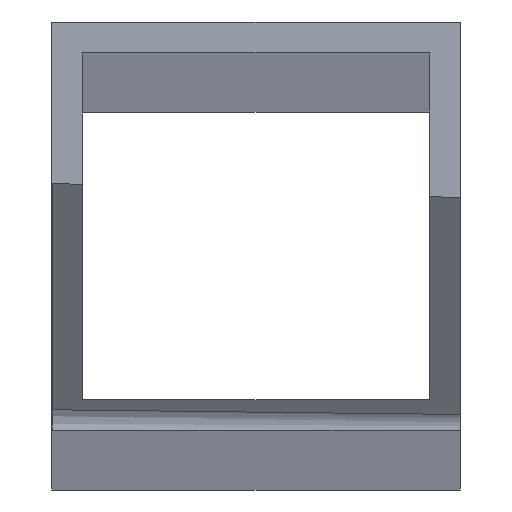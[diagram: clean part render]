
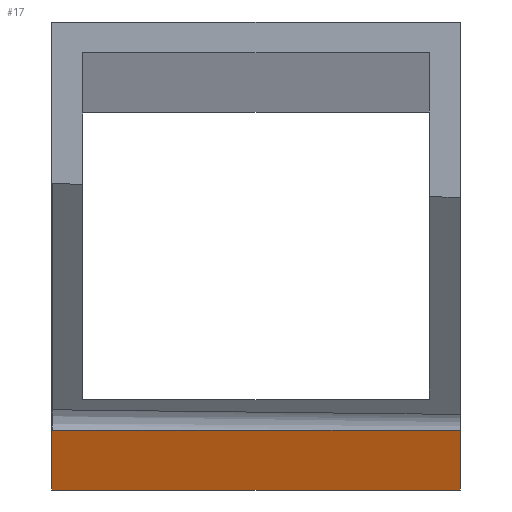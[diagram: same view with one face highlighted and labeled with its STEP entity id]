
A CAD part, top view. The second image highlights one B-rep face of the part: STEP entity #17.
In plain terms, the highlighted planar face has unit normal (0, -1, 0).
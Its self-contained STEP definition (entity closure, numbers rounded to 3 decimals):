
#17 = ADVANCED_FACE('',(#18),#32,.F.);
#18 = FACE_BOUND('',#19,.F.);
#19 = EDGE_LOOP('',(#20,#55,#83,#116,#148));
#20 = ORIENTED_EDGE('',*,*,#21,.F.);
#21 = EDGE_CURVE('',#22,#24,#26,.T.);
#22 = VERTEX_POINT('',#23);
#23 = CARTESIAN_POINT('',(-20.,-20.,0.));
#24 = VERTEX_POINT('',#25);
#25 = CARTESIAN_POINT('',(20.,-20.,0.));
#26 = SURFACE_CURVE('',#27,(#31,#43),.PCURVE_S1.);
#27 = LINE('',#28,#29);
#28 = CARTESIAN_POINT('',(-20.,-20.,0.));
#29 = VECTOR('',#30,1.);
#30 = DIRECTION('',(1.,0.,0.));
#31 = PCURVE('',#32,#37);
#32 = PLANE('',#33);
#33 = AXIS2_PLACEMENT_3D('',#34,#35,#36);
#34 = CARTESIAN_POINT('',(-20.,-20.,0.));
#35 = DIRECTION('',(0.,1.,0.));
#36 = DIRECTION('',(1.,0.,0.));
#37 = DEFINITIONAL_REPRESENTATION('',(#38),#42);
#38 = LINE('',#39,#40);
#39 = CARTESIAN_POINT('',(0.,0.));
#40 = VECTOR('',#41,1.);
#41 = DIRECTION('',(1.,0.));
#42 = ( GEOMETRIC_REPRESENTATION_CONTEXT(2) 
PARAMETRIC_REPRESENTATION_CONTEXT() REPRESENTATION_CONTEXT('2D SPACE',''
  ) );
#43 = PCURVE('',#44,#49);
#44 = PLANE('',#45);
#45 = AXIS2_PLACEMENT_3D('',#46,#47,#48);
#46 = CARTESIAN_POINT('',(0.,0.,0.));
#47 = DIRECTION('',(0.,0.,1.));
#48 = DIRECTION('',(1.,0.,-0.));
#49 = DEFINITIONAL_REPRESENTATION('',(#50),#54);
#50 = LINE('',#51,#52);
#51 = CARTESIAN_POINT('',(-20.,-20.));
#52 = VECTOR('',#53,1.);
#53 = DIRECTION('',(1.,0.));
#54 = ( GEOMETRIC_REPRESENTATION_CONTEXT(2) 
PARAMETRIC_REPRESENTATION_CONTEXT() REPRESENTATION_CONTEXT('2D SPACE',''
  ) );
#55 = ORIENTED_EDGE('',*,*,#56,.T.);
#56 = EDGE_CURVE('',#22,#57,#59,.T.);
#57 = VERTEX_POINT('',#58);
#58 = CARTESIAN_POINT('',(-20.,-20.,3341.59));
#59 = SURFACE_CURVE('',#60,(#64,#71),.PCURVE_S1.);
#60 = LINE('',#61,#62);
#61 = CARTESIAN_POINT('',(-20.,-20.,0.));
#62 = VECTOR('',#63,1.);
#63 = DIRECTION('',(0.,0.,1.));
#64 = PCURVE('',#32,#65);
#65 = DEFINITIONAL_REPRESENTATION('',(#66),#70);
#66 = LINE('',#67,#68);
#67 = CARTESIAN_POINT('',(0.,0.));
#68 = VECTOR('',#69,1.);
#69 = DIRECTION('',(0.,-1.));
#70 = ( GEOMETRIC_REPRESENTATION_CONTEXT(2) 
PARAMETRIC_REPRESENTATION_CONTEXT() REPRESENTATION_CONTEXT('2D SPACE',''
  ) );
#71 = PCURVE('',#72,#77);
#72 = PLANE('',#73);
#73 = AXIS2_PLACEMENT_3D('',#74,#75,#76);
#74 = CARTESIAN_POINT('',(-20.,20.,0.));
#75 = DIRECTION('',(1.,0.,-0.));
#76 = DIRECTION('',(0.,-1.,0.));
#77 = DEFINITIONAL_REPRESENTATION('',(#78),#82);
#78 = LINE('',#79,#80);
#79 = CARTESIAN_POINT('',(40.,0.));
#80 = VECTOR('',#81,1.);
#81 = DIRECTION('',(0.,-1.));
#82 = ( GEOMETRIC_REPRESENTATION_CONTEXT(2) 
PARAMETRIC_REPRESENTATION_CONTEXT() REPRESENTATION_CONTEXT('2D SPACE',''
  ) );
#83 = ORIENTED_EDGE('',*,*,#84,.F.);
#84 = EDGE_CURVE('',#85,#57,#87,.T.);
#85 = VERTEX_POINT('',#86);
#86 = CARTESIAN_POINT('',(-19.977,-20.,3341.59));
#87 = SURFACE_CURVE('',#88,(#93,#100),.PCURVE_S1.);
#88 = CIRCLE('',#89,1.795);
#89 = AXIS2_PLACEMENT_3D('',#90,#91,#92);
#90 = CARTESIAN_POINT('',(-19.996,-20.,3343.385));
#91 = DIRECTION('',(0.,1.,0.));
#92 = DIRECTION('',(0.,-0.,1.));
#93 = PCURVE('',#32,#94);
#94 = DEFINITIONAL_REPRESENTATION('',(#95),#99);
#95 = CIRCLE('',#96,1.795);
#96 = AXIS2_PLACEMENT_2D('',#97,#98);
#97 = CARTESIAN_POINT('',(0.004,-3343.385));
#98 = DIRECTION('',(0.,-1.));
#99 = ( GEOMETRIC_REPRESENTATION_CONTEXT(2) 
PARAMETRIC_REPRESENTATION_CONTEXT() REPRESENTATION_CONTEXT('2D SPACE',''
  ) );
#100 = PCURVE('',#101,#106);
#101 = SPHERICAL_SURFACE('',#102,2.);
#102 = AXIS2_PLACEMENT_3D('',#103,#104,#105);
#103 = CARTESIAN_POINT('',(-19.996,-19.118,
    3343.385));
#104 = DIRECTION('',(-0.721,-0.397,0.568));
#105 = DIRECTION('',(0.566,0.135,0.813));
#106 = DEFINITIONAL_REPRESENTATION('',(#107),#115);
#107 = B_SPLINE_CURVE_WITH_KNOTS('',6,(#108,#109,#110,#111,#112,#113,
    #114),.UNSPECIFIED.,.F.,.F.,(7,7),(2.66,3.144),
  .PIECEWISE_BEZIER_KNOTS.);
#108 = CARTESIAN_POINT('',(4.097,-0.614));
#109 = CARTESIAN_POINT('',(4.018,-0.581));
#110 = CARTESIAN_POINT('',(3.946,-0.541));
#111 = CARTESIAN_POINT('',(3.88,-0.496));
#112 = CARTESIAN_POINT('',(3.821,-0.447));
#113 = CARTESIAN_POINT('',(3.767,-0.395));
#114 = CARTESIAN_POINT('',(3.717,-0.339));
#115 = ( GEOMETRIC_REPRESENTATION_CONTEXT(2) 
PARAMETRIC_REPRESENTATION_CONTEXT() REPRESENTATION_CONTEXT('2D SPACE',''
  ) );
#116 = ORIENTED_EDGE('',*,*,#117,.F.);
#117 = EDGE_CURVE('',#118,#85,#120,.T.);
#118 = VERTEX_POINT('',#119);
#119 = CARTESIAN_POINT('',(20.,-20.,3342.085));
#120 = SURFACE_CURVE('',#121,(#126,#133),.PCURVE_S1.);
#121 = ELLIPSE('',#122,174.438,2.);
#122 = AXIS2_PLACEMENT_3D('',#123,#124,#125);
#123 = CARTESIAN_POINT('',(56.879,-20.,3344.645));
#124 = DIRECTION('',(0.,1.,0.));
#125 = DIRECTION('',(1.,-0.,0.016));
#126 = PCURVE('',#32,#127);
#127 = DEFINITIONAL_REPRESENTATION('',(#128),#132);
#128 = ELLIPSE('',#129,174.438,2.);
#129 = AXIS2_PLACEMENT_2D('',#130,#131);
#130 = CARTESIAN_POINT('',(76.879,-3344.645));
#131 = DIRECTION('',(1.,-0.016));
#132 = ( GEOMETRIC_REPRESENTATION_CONTEXT(2) 
PARAMETRIC_REPRESENTATION_CONTEXT() REPRESENTATION_CONTEXT('2D SPACE',''
  ) );
#133 = PCURVE('',#134,#139);
#134 = CYLINDRICAL_SURFACE('',#135,2.);
#135 = AXIS2_PLACEMENT_3D('',#136,#137,#138);
#136 = CARTESIAN_POINT('',(-19.996,-19.118,
    3343.385));
#137 = DIRECTION('',(1.,-0.011,
    0.016));
#138 = DIRECTION('',(-0.02,-0.573,0.819)
  );
#139 = DEFINITIONAL_REPRESENTATION('',(#140),#147);
#140 = B_SPLINE_CURVE_WITH_KNOTS('',5,(#141,#142,#143,#144,#145,#146),
  .UNSPECIFIED.,.F.,.F.,(6,6),(1.784,2.027),
  .PIECEWISE_BEZIER_KNOTS.);
#141 = CARTESIAN_POINT('',(2.318,40.));
#142 = CARTESIAN_POINT('',(2.269,31.701));
#143 = CARTESIAN_POINT('',(2.221,23.511));
#144 = CARTESIAN_POINT('',(2.172,15.471));
#145 = CARTESIAN_POINT('',(2.123,7.622));
#146 = CARTESIAN_POINT('',(2.075,0.));
#147 = ( GEOMETRIC_REPRESENTATION_CONTEXT(2) 
PARAMETRIC_REPRESENTATION_CONTEXT() REPRESENTATION_CONTEXT('2D SPACE',''
  ) );
#148 = ORIENTED_EDGE('',*,*,#149,.F.);
#149 = EDGE_CURVE('',#24,#118,#150,.T.);
#150 = SURFACE_CURVE('',#151,(#155,#162),.PCURVE_S1.);
#151 = LINE('',#152,#153);
#152 = CARTESIAN_POINT('',(20.,-20.,0.));
#153 = VECTOR('',#154,1.);
#154 = DIRECTION('',(0.,0.,1.));
#155 = PCURVE('',#32,#156);
#156 = DEFINITIONAL_REPRESENTATION('',(#157),#161);
#157 = LINE('',#158,#159);
#158 = CARTESIAN_POINT('',(40.,0.));
#159 = VECTOR('',#160,1.);
#160 = DIRECTION('',(0.,-1.));
#161 = ( GEOMETRIC_REPRESENTATION_CONTEXT(2) 
PARAMETRIC_REPRESENTATION_CONTEXT() REPRESENTATION_CONTEXT('2D SPACE',''
  ) );
#162 = PCURVE('',#163,#168);
#163 = PLANE('',#164);
#164 = AXIS2_PLACEMENT_3D('',#165,#166,#167);
#165 = CARTESIAN_POINT('',(20.,-20.,0.));
#166 = DIRECTION('',(-1.,0.,0.));
#167 = DIRECTION('',(0.,1.,0.));
#168 = DEFINITIONAL_REPRESENTATION('',(#169),#173);
#169 = LINE('',#170,#171);
#170 = CARTESIAN_POINT('',(0.,0.));
#171 = VECTOR('',#172,1.);
#172 = DIRECTION('',(0.,-1.));
#173 = ( GEOMETRIC_REPRESENTATION_CONTEXT(2) 
PARAMETRIC_REPRESENTATION_CONTEXT() REPRESENTATION_CONTEXT('2D SPACE',''
  ) );
